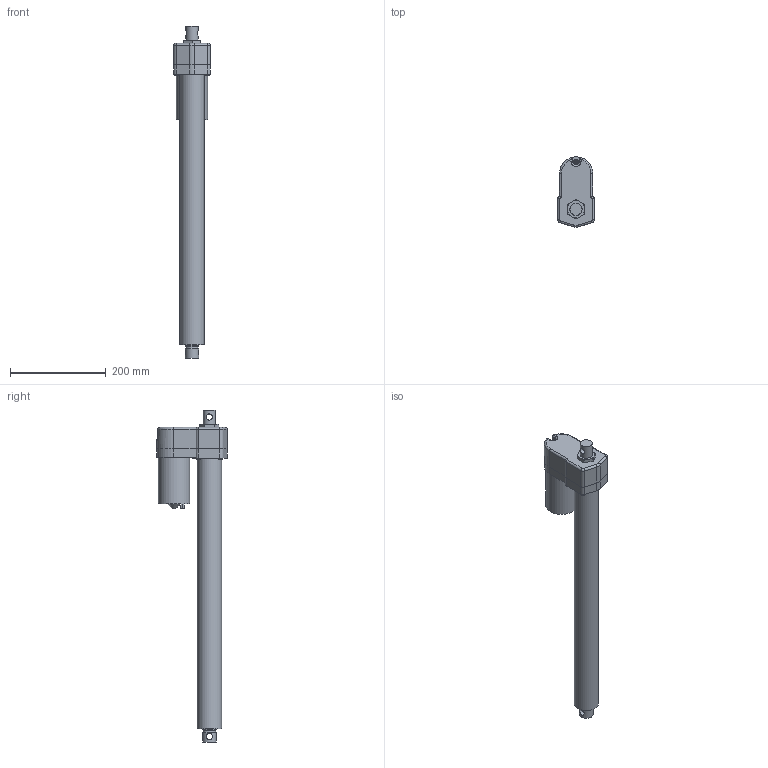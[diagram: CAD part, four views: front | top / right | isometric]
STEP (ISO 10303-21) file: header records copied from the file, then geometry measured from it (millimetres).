
FILE_DESCRIPTION (( 'STEP AP214' ), '1' );
FILE_NAME ('D12-05A5-18M0N-tollo.step', '2020-04-13T14:32:05', ( '' ), ( '' ), 'SwSTEP 2.0', 'SolidWorks 2010', '' );
FILE_SCHEMA (( 'AUTOMOTIVE_DESIGN' ));
Length unit declared in the file: millimetre
Products named in the file (7): Electrak-LA10-Motor-D12-05A5-18M0N-tollo_Electrak-LA10-Motor-D12-05A5-18M0N-tollo; Electrak-LA10-Rear-D12-05A5-18M0N-tollo_Electrak-LA10-Rear-D12-05A5-18M0N-tollo; Electrak-LA10-Tube-D12-05A5-18M0N-tollo_Electrak-LA10-Tube-D12-05A5-18M0N-tollo; Electrak-LA10-Rod-D12-05A5-18M0N-tollo_Electrak-LA10-Rod-D12-05A5-18M0N-tollo; Screw-MFX-H-M5-D12-05A5-18M0N-tollo_Screw-MFX-H-M5-D12-05A5-18M0N-tollo; Screw-M6S-M5-D12-05A5-18M0N-tollo_Screw-M6S-M5-D12-05A5-18M0N-tollo; D12-05A5-18M0N-tollo
Assembly tree (9 placements, depth 2):
  D12-05A5-18M0N-tollo
    Electrak-LA10-Tube-D12-05A5-18M0N-tollo_Electrak-LA10-Tube-D12-05A5-18M0N-tollo
    Electrak-LA10-Rear-D12-05A5-18M0N-tollo_Electrak-LA10-Rear-D12-05A5-18M0N-tollo
    Screw-M6S-M5-D12-05A5-18M0N-tollo_Screw-M6S-M5-D12-05A5-18M0N-tollo  x4
    Electrak-LA10-Motor-D12-05A5-18M0N-tollo_Electrak-LA10-Motor-D12-05A5-18M0N-tollo
    Screw-MFX-H-M5-D12-05A5-18M0N-tollo_Screw-MFX-H-M5-D12-05A5-18M0N-tollo
    Electrak-LA10-Rod-D12-05A5-18M0N-tollo_Electrak-LA10-Rod-D12-05A5-18M0N-tollo
Bounding box: 76.2 x 147.19 x 694.8 mm (x, y, z)
Volume: 2084626.2 mm3; surface area: 287090.6 mm2
Topology: 9 solids, 9 shells, 221 faces, 506 edges, 322 vertices
Faces by surface type: plane 91, cylinder 84, cone 30, torus 14, bspline 2
Full cylindrical faces by diameter (mm): 4 x2, 4.126 x5, 4.8 x10, 5 x5, 7.878 x4, 9.3 x1, 12.8 x2, 25.4 x1, 28.6 x4, 51 x1, 65.3 x1
Entity records: 5123 total; most frequent: CARTESIAN_POINT 1484, DIRECTION 724, ORIENTED_EDGE 594, AXIS2_PLACEMENT_3D 305, EDGE_CURVE 297, EDGE_LOOP 224, VERTEX_POINT 213, FACE_OUTER_BOUND 179
